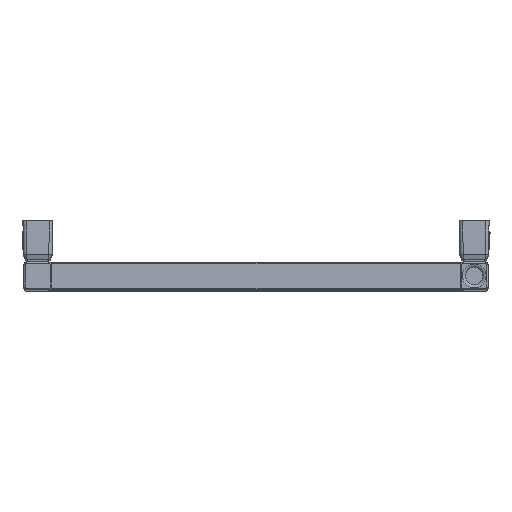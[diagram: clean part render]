
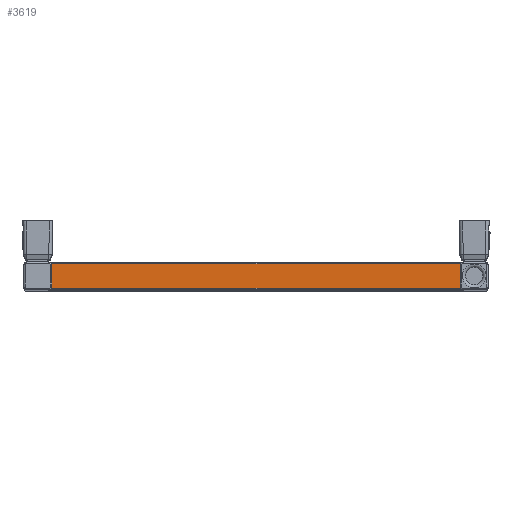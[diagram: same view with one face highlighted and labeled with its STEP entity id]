
A CAD part, top view. The second image highlights one B-rep face of the part: STEP entity #3619.
In plain terms, the highlighted planar face has unit normal (0, 0, 1).
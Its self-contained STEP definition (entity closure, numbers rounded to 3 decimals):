
#3544=CARTESIAN_POINT('',(0.0,-13.,795.0));
#3545=DIRECTION('',(0.0,0.0,1.0));
#3546=DIRECTION('',(1.0,0.0,0.0));
#3547=AXIS2_PLACEMENT_3D('',#3544,#3545,#3546);
#3548=PLANE('',#3547);
#3549=CARTESIAN_POINT('',(220.172,13.,795.0));
#3550=VERTEX_POINT('',#3549);
#3551=CARTESIAN_POINT('',(220.,12.,795.0));
#3552=VERTEX_POINT('',#3551);
#3553=CARTESIAN_POINT('',(223.,12.,795.0));
#3554=DIRECTION('',(0.0,0.0,1.0));
#3555=DIRECTION('',(0.0,1.0,0.0));
#3556=AXIS2_PLACEMENT_3D('',#3553,#3554,#3555);
#3557=CIRCLE('',#3556,3.);
#3558=EDGE_CURVE('',#3550,#3552,#3557,.T.);
#3559=ORIENTED_EDGE('',*,*,#3558,.F.);
#3560=CARTESIAN_POINT('',(-220.172,13.,795.0));
#3561=VERTEX_POINT('',#3560);
#3562=CARTESIAN_POINT('',(220.172,13.,795.0));
#3563=DIRECTION('',(-1.0,0.0,0.0));
#3564=VECTOR('',#3563,440.343);
#3565=LINE('',#3562,#3564);
#3566=EDGE_CURVE('',#3550,#3561,#3565,.T.);
#3567=ORIENTED_EDGE('',*,*,#3566,.T.);
#3568=CARTESIAN_POINT('',(-220.,12.,795.0));
#3569=VERTEX_POINT('',#3568);
#3570=CARTESIAN_POINT('',(-223.,12.,795.0));
#3571=DIRECTION('',(0.0,0.0,1.0));
#3572=DIRECTION('',(1.0,0.0,0.0));
#3573=AXIS2_PLACEMENT_3D('',#3570,#3571,#3572);
#3574=CIRCLE('',#3573,3.);
#3575=EDGE_CURVE('',#3569,#3561,#3574,.T.);
#3576=ORIENTED_EDGE('',*,*,#3575,.F.);
#3577=CARTESIAN_POINT('',(-220.,-12.,795.0));
#3578=VERTEX_POINT('',#3577);
#3579=CARTESIAN_POINT('',(-220.,-12.,795.0));
#3580=DIRECTION('',(0.0,1.0,0.0));
#3581=VECTOR('',#3580,24.);
#3582=LINE('',#3579,#3581);
#3583=EDGE_CURVE('',#3578,#3569,#3582,.T.);
#3584=ORIENTED_EDGE('',*,*,#3583,.F.);
#3585=CARTESIAN_POINT('',(-220.172,-13.,795.0));
#3586=VERTEX_POINT('',#3585);
#3587=CARTESIAN_POINT('',(-223.,-12.,795.0));
#3588=DIRECTION('',(0.0,0.0,1.0));
#3589=DIRECTION('',(0.0,-1.0,0.0));
#3590=AXIS2_PLACEMENT_3D('',#3587,#3588,#3589);
#3591=CIRCLE('',#3590,3.0);
#3592=EDGE_CURVE('',#3586,#3578,#3591,.T.);
#3593=ORIENTED_EDGE('',*,*,#3592,.F.);
#3594=CARTESIAN_POINT('',(220.172,-13.,795.0));
#3595=VERTEX_POINT('',#3594);
#3596=CARTESIAN_POINT('',(220.172,-13.,795.0));
#3597=DIRECTION('',(-1.0,0.0,0.0));
#3598=VECTOR('',#3597,440.343);
#3599=LINE('',#3596,#3598);
#3600=EDGE_CURVE('',#3595,#3586,#3599,.T.);
#3601=ORIENTED_EDGE('',*,*,#3600,.F.);
#3602=CARTESIAN_POINT('',(220.,-12.,795.0));
#3603=VERTEX_POINT('',#3602);
#3604=CARTESIAN_POINT('',(223.,-12.,795.0));
#3605=DIRECTION('',(0.0,0.0,1.0));
#3606=DIRECTION('',(-1.0,0.0,0.0));
#3607=AXIS2_PLACEMENT_3D('',#3604,#3605,#3606);
#3608=CIRCLE('',#3607,3.0);
#3609=EDGE_CURVE('',#3603,#3595,#3608,.T.);
#3610=ORIENTED_EDGE('',*,*,#3609,.F.);
#3611=CARTESIAN_POINT('',(220.,12.,795.0));
#3612=DIRECTION('',(0.0,-1.0,0.0));
#3613=VECTOR('',#3612,24.);
#3614=LINE('',#3611,#3613);
#3615=EDGE_CURVE('',#3552,#3603,#3614,.T.);
#3616=ORIENTED_EDGE('',*,*,#3615,.F.);
#3617=EDGE_LOOP('',(#3559,#3567,#3576,#3584,#3593,#3601,#3610,#3616));
#3618=FACE_OUTER_BOUND('',#3617,.T.);
#3619=ADVANCED_FACE('',(#3618),#3548,.T.);
